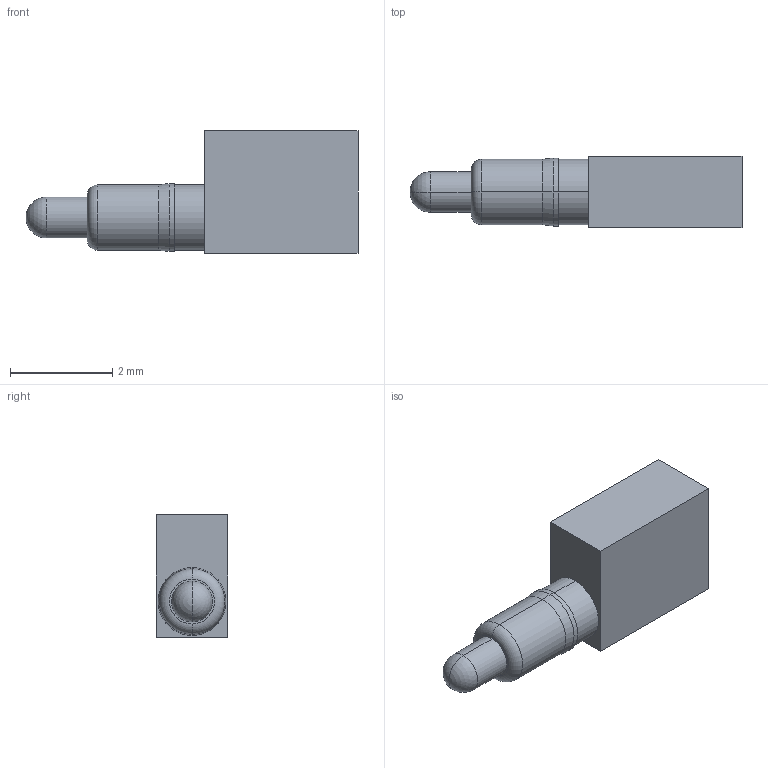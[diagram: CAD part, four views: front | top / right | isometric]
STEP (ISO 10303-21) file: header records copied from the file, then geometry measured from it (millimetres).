
FILE_DESCRIPTION((''),'2;1');
FILE_NAME('NC4411-01PA','2022-05-25T10:40:14',('USER'),(''),'CREO PARAMETRIC BY PTC INC, 2018400','CREO PARAMETRIC BY PTC INC, 2018400','');
FILE_SCHEMA(('CONFIG_CONTROL_DESIGN'));
Length unit declared in the file: millimetre
Products named in the file (1): NC4411-01PA
Bounding box: 6.5 x 1.4 x 2.4 mm (x, y, z)
Volume: 13.6 mm3; surface area: 41.1 mm2
Topology: 1 solids, 1 shells, 22 faces, 46 edges, 27 vertices
Faces by surface type: cylinder 8, plane 8, sphere 2, torus 2, cone 2
Entity records: 612 total; most frequent: DIRECTION 110, CARTESIAN_POINT 93, ORIENTED_EDGE 88, AXIS2_PLACEMENT_3D 44, EDGE_CURVE 44, VERTEX_POINT 27, EDGE_LOOP 25, VECTOR 22
